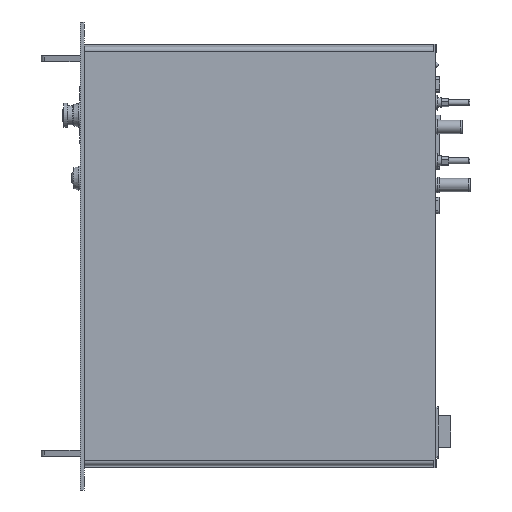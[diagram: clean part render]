
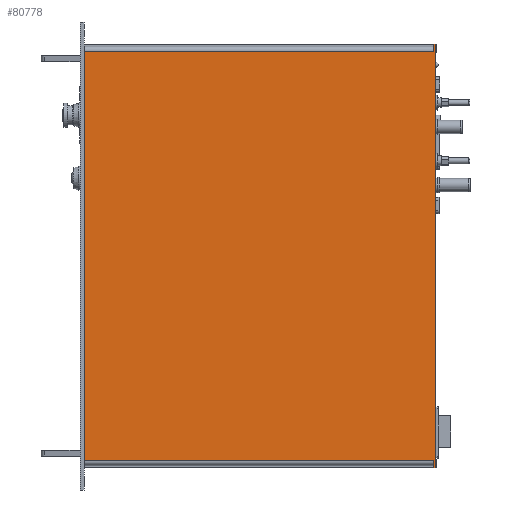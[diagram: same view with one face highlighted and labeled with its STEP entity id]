
A CAD part, front view. The second image highlights one B-rep face of the part: STEP entity #80778.
In plain terms, the highlighted planar face has unit normal (0, -1, 0).
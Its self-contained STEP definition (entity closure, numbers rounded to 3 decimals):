
#3653=LINE($,#108945,#10863);
#3657=LINE($,#108954,#10867);
#6573=LINE($,#127370,#13783);
#9323=LINE($,#136043,#16533);
#9325=LINE($,#136048,#16535);
#9326=LINE($,#136049,#16536);
#9327=LINE($,#136051,#16537);
#9328=LINE($,#136052,#16538);
#10863=VECTOR($,#91765,0.7);
#10867=VECTOR($,#91771,0.7);
#13783=VECTOR($,#96409,43.6);
#16533=VECTOR($,#102475,36.);
#16535=VECTOR($,#102481,0.2);
#16536=VECTOR($,#102482,0.2);
#16537=VECTOR($,#102483,36.);
#16538=VECTOR($,#102484,42.2);
#19289=PLANE($,#85878);
#25569=FACE_OUTER_BOUND($,#31176,.T.);
#31176=EDGE_LOOP($,(#71069,#71070,#71071,#71072,#71073,#71074,#71075,#71076));
#35220=VERTEX_POINT($,#108942);
#35221=VERTEX_POINT($,#108944);
#35224=VERTEX_POINT($,#108951);
#35225=VERTEX_POINT($,#108953);
#38157=VERTEX_POINT($,#127366);
#38159=VERTEX_POINT($,#127369);
#40600=VERTEX_POINT($,#136042);
#40602=VERTEX_POINT($,#136050);
#42971=EDGE_CURVE($,#35220,#35221,#3653,.T.);
#42975=EDGE_CURVE($,#35224,#35225,#3657,.T.);
#47368=EDGE_CURVE($,#38159,#38157,#6573,.T.);
#50891=EDGE_CURVE($,#35225,#40600,#9323,.T.);
#50894=EDGE_CURVE($,#35224,#38159,#9325,.T.);
#50895=EDGE_CURVE($,#35221,#38157,#9326,.T.);
#50896=EDGE_CURVE($,#40602,#35220,#9327,.T.);
#50897=EDGE_CURVE($,#40600,#40602,#9328,.T.);
#71069=ORIENTED_EDGE($,*,*,#50891,.F.);
#71070=ORIENTED_EDGE($,*,*,#42975,.F.);
#71071=ORIENTED_EDGE($,*,*,#50894,.T.);
#71072=ORIENTED_EDGE($,*,*,#47368,.T.);
#71073=ORIENTED_EDGE($,*,*,#50895,.F.);
#71074=ORIENTED_EDGE($,*,*,#42971,.F.);
#71075=ORIENTED_EDGE($,*,*,#50896,.F.);
#71076=ORIENTED_EDGE($,*,*,#50897,.F.);
#80778=ADVANCED_FACE($,(#25569),#19289,.T.);
#85878=AXIS2_PLACEMENT_3D($,#136047,#102479,#102480);
#91765=DIRECTION($,(0.,0.,1.));
#91771=DIRECTION($,(0.,0.,1.));
#96409=DIRECTION($,(0.,0.,1.));
#102475=DIRECTION($,(-1.,0.,0.));
#102479=DIRECTION('center_axis',(0.,-1.,0.));
#102480=DIRECTION('ref_axis',(0.,0.,-1.));
#102481=DIRECTION($,(1.,0.,0.));
#102482=DIRECTION($,(1.,0.,0.));
#102483=DIRECTION($,(1.,0.,0.));
#102484=DIRECTION($,(0.,0.,1.));
#108942=CARTESIAN_POINT('',(18.759,-11.3,18.308));
#108944=CARTESIAN_POINT('',(18.759,-11.3,19.008));
#108945=CARTESIAN_POINT($,(18.759,-11.3,-24.592));
#108951=CARTESIAN_POINT('',(18.759,-11.3,-24.592));
#108953=CARTESIAN_POINT('',(18.759,-11.3,-23.892));
#108954=CARTESIAN_POINT($,(18.759,-11.3,-24.592));
#127366=CARTESIAN_POINT('',(18.959,-11.3,19.008));
#127369=CARTESIAN_POINT('',(18.959,-11.3,-24.592));
#127370=CARTESIAN_POINT($,(18.959,-11.3,-24.592));
#136042=CARTESIAN_POINT('',(-17.241,-11.3,-23.892));
#136043=CARTESIAN_POINT($,(18.759,-11.3,-23.892));
#136047=CARTESIAN_POINT('Origin',(18.759,-11.3,-24.592));
#136048=CARTESIAN_POINT($,(18.759,-11.3,-24.592));
#136049=CARTESIAN_POINT($,(18.759,-11.3,19.008));
#136050=CARTESIAN_POINT('',(-17.241,-11.3,18.308));
#136051=CARTESIAN_POINT($,(-17.241,-11.3,18.308));
#136052=CARTESIAN_POINT($,(-17.241,-11.3,-23.892));
